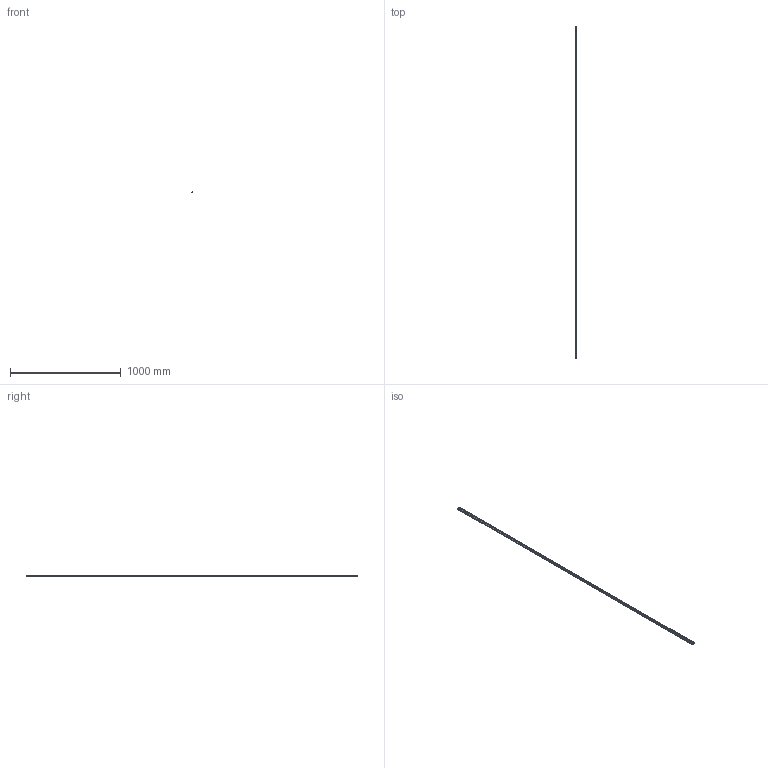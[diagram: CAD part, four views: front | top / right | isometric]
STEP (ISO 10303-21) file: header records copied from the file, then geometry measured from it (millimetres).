
FILE_DESCRIPTION(/* description */ (''),/* implementation_level */ '2;1');
FILE_NAME(/* name */ '1714482.stp',/* time_stamp */ '2019-06-28T06:38:36+02:00',/* author */ (''),/* organization */ (''),/* preprocessor_version */ 'ST-DEVELOPER v16.7',/* originating_system */ 'SIEMENS PLM Software NX 12.0',/* authorisation */ '');
FILE_SCHEMA (('AUTOMOTIVE_DESIGN { 1 0 10303 214 3 1 1 1 }'));
Length unit declared in the file: millimetre
Products named in the file (1): p.sc12DC843Asjyv
Bounding box: 17.98 x 3000 x 17.98 mm (x, y, z)
Volume: 199872.5 mm3; surface area: 324789.8 mm2
Topology: 1 solids, 1 shells, 60 faces, 174 edges, 116 vertices
Faces by surface type: cylinder 32, plane 28
Entity records: 2038 total; most frequent: DIRECTION 360, CARTESIAN_POINT 351, ORIENTED_EDGE 348, EDGE_CURVE 174, AXIS2_PLACEMENT_3D 125, VERTEX_POINT 116, LINE 110, VECTOR 110
